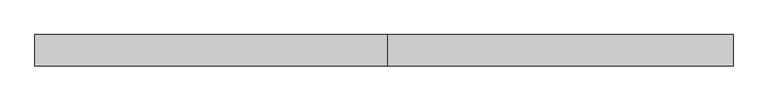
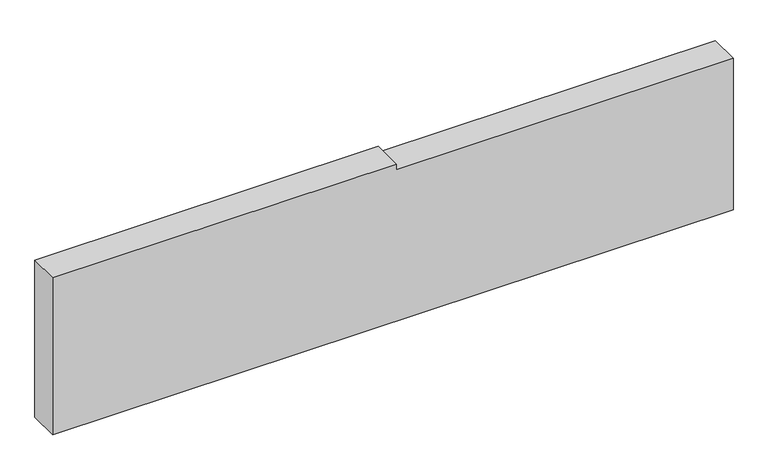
"""IFC4 building model written with IfcOpenShell, lengths in millimetres: plate geometry, Пустая системная панель : Пустая системная панель."""

from ifc_helpers import new_model, si_unit, frame, origin, place, context, project, spatial, polyline, outline, extrude, source, transform, mapped, element, save


def plate_bf13fc90(model_context):
    return source(origin(), model_context, "Body", "SweptSolid", [
        extrude(outline(polyline([(0.0, -1106.75), (0.0, 1106.75), (520.0, 1106.75), (520.0, 10.75), (540.0, 10.75), (540.0, -1106.75), (0.0, -1106.75)])), frame((0.0, -50.0, 0.0), z_axis=(0.0, 1.0, 0.0), x_axis=(0.0, 0.0, 1.0)), (0.0, 0.0, 1.0), 100.0),
    ])


if __name__ == "__main__":
    model = new_model("IFC4")
    model_context = context("Model", 3, world=origin())
    ifc_project = project(units=[si_unit("LENGTHUNIT", "METRE", prefix="MILLI")], contexts=[model_context])
    site = spatial("IfcSite", under=ifc_project)
    building = spatial("IfcBuilding", under=site)
    placement = place(None, origin())
    plate_shape = plate_bf13fc90(model_context)
    element("IfcPlate", 1, ObjectType="Пустая системная панель : Пустая системная панель", at=placement, inside=building, context=model_context, shape_type="MappedRepresentation", body=[
        mapped(plate_shape, transform((0.0, 0.0, 0.0), x_axis=(1.0, 0.0, 0.0), y_axis=(0.0, 1.0, 0.0), z_axis=(0.0, 0.0, 1.0))),
    ])
    save(model, "model.ifc")
